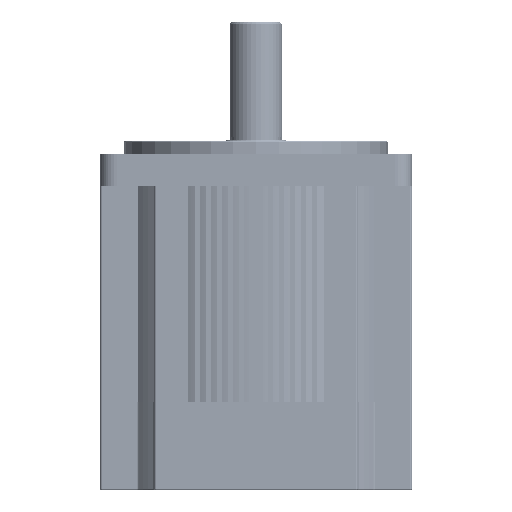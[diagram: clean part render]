
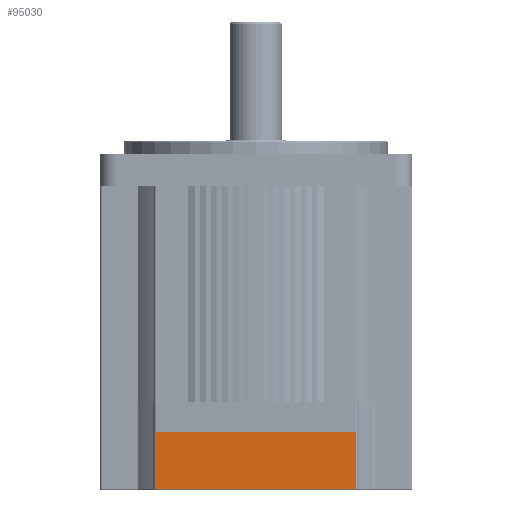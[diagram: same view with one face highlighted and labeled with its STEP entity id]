
A CAD part, front view. The second image highlights one B-rep face of the part: STEP entity #95030.
In plain terms, the highlighted planar face has unit normal (0, -1, 0).
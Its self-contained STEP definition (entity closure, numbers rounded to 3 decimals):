
#6290 = DIRECTION ( 'NONE',  ( 0., 0., 1. ) ) ;
#11416 = VERTEX_POINT ( 'NONE', #60238 ) ;
#13126 = VERTEX_POINT ( 'NONE', #72130 ) ;
#14200 = LINE ( 'NONE', #126758, #117831 ) ;
#16639 = EDGE_LOOP ( 'NONE', ( #71697, #31271, #26083, #123416 ) ) ;
#19924 = PLANE ( 'NONE',  #57539 ) ;
#20542 = EDGE_CURVE ( 'NONE', #13126, #118800, #14200, .T. ) ;
#26083 = ORIENTED_EDGE ( 'NONE', *, *, #51591, .T. ) ;
#30850 = VECTOR ( 'NONE', #54660, 1000. ) ;
#30926 = CARTESIAN_POINT ( 'NONE',  ( -42.5, -65., -57.5 ) ) ;
#31271 = ORIENTED_EDGE ( 'NONE', *, *, #52525, .T. ) ;
#43149 = DIRECTION ( 'NONE',  ( -1., 0., 0. ) ) ;
#51591 = EDGE_CURVE ( 'NONE', #80211, #11416, #100771, .T. ) ;
#52385 = DIRECTION ( 'NONE',  ( 0., 1., 0. ) ) ;
#52525 = EDGE_CURVE ( 'NONE', #118800, #80211, #69018, .T. ) ;
#54660 = DIRECTION ( 'NONE',  ( 1., 0., 0. ) ) ;
#57539 = AXIS2_PLACEMENT_3D ( 'NONE', #30926, #52385, #43149 ) ;
#60238 = CARTESIAN_POINT ( 'NONE',  ( 41.5, -65., -57.5 ) ) ;
#66481 = CARTESIAN_POINT ( 'NONE',  ( 41.5, -65., -57.5 ) ) ;
#69018 = LINE ( 'NONE', #92983, #122378 ) ;
#71697 = ORIENTED_EDGE ( 'NONE', *, *, #20542, .T. ) ;
#72130 = CARTESIAN_POINT ( 'NONE',  ( -41.5, -65., -57.5 ) ) ;
#75228 = CARTESIAN_POINT ( 'NONE',  ( -42.5, -65., -57.5 ) ) ;
#80211 = VERTEX_POINT ( 'NONE', #96590 ) ;
#81826 = CARTESIAN_POINT ( 'NONE',  ( -41.5, -65., -81. ) ) ;
#85039 = VECTOR ( 'NONE', #6290, 1000. ) ;
#85113 = DIRECTION ( 'NONE',  ( 0., 0., -1. ) ) ;
#92983 = CARTESIAN_POINT ( 'NONE',  ( -42.5, -65., -81. ) ) ;
#95030 = ADVANCED_FACE ( 'NONE', ( #115484 ), #19924, .F. ) ;
#96590 = CARTESIAN_POINT ( 'NONE',  ( 41.5, -65., -81. ) ) ;
#100771 = LINE ( 'NONE', #66481, #85039 ) ;
#103073 = LINE ( 'NONE', #75228, #30850 ) ;
#109882 = EDGE_CURVE ( 'NONE', #13126, #11416, #103073, .T. ) ;
#115484 = FACE_OUTER_BOUND ( 'NONE', #16639, .T. ) ;
#117831 = VECTOR ( 'NONE', #85113, 1000. ) ;
#118800 = VERTEX_POINT ( 'NONE', #81826 ) ;
#122378 = VECTOR ( 'NONE', #122758, 1000. ) ;
#122758 = DIRECTION ( 'NONE',  ( 1., 0., 0. ) ) ;
#123416 = ORIENTED_EDGE ( 'NONE', *, *, #109882, .F. ) ;
#126758 = CARTESIAN_POINT ( 'NONE',  ( -41.5, -65., -57.5 ) ) ;
